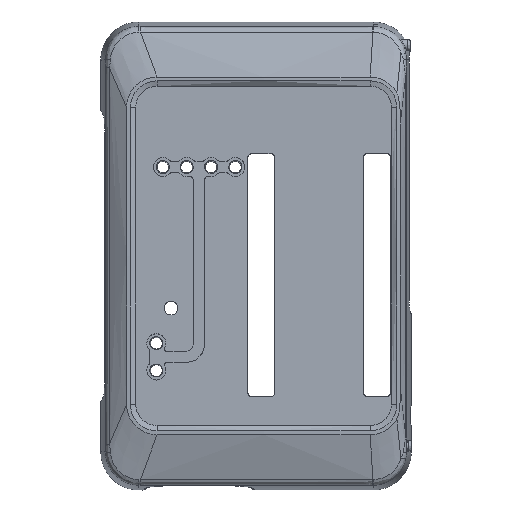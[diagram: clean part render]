
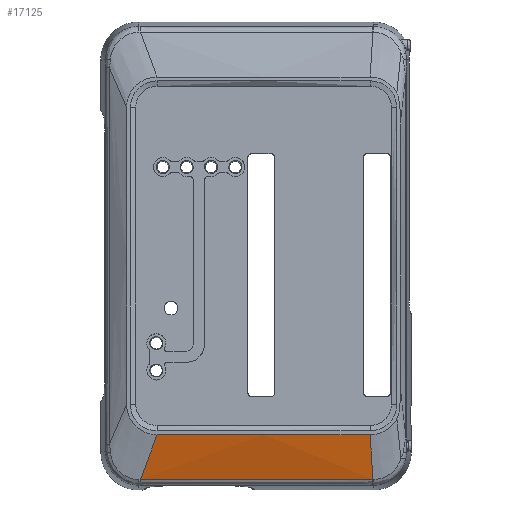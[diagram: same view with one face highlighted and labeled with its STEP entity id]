
A CAD part, top view. The second image highlights one B-rep face of the part: STEP entity #17125.
In plain terms, the highlighted free-form (B-spline) face has degree [3, 3] with [6, 4] control points.
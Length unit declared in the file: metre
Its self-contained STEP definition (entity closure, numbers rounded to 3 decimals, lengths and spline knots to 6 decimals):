
#305 = CARTESIAN_POINT ( 'NONE',  ( -0.029435, 0.020688, 0.003721 ) ) ;
#500 = CARTESIAN_POINT ( 'NONE',  ( -0.023381, 0.022264, -0.013515 ) ) ;
#784 = CARTESIAN_POINT ( 'NONE',  ( -0.027499, 0.021329, 0.005542 ) ) ;
#920 = CARTESIAN_POINT ( 'NONE',  ( -0.027499, 0.021174, -0.01506 ) ) ;
#1070 = B_SPLINE_CURVE_WITH_KNOTS ( 'NONE', 3,
 ( #7964, #23617, #10175, #14713 ),
 .UNSPECIFIED., .F., .F.,
 ( 4, 4 ),
 ( 0., 1. ),
 .UNSPECIFIED. ) ;
#1439 = CARTESIAN_POINT ( 'NONE',  ( -0.0235, 0.022164, 0.015 ) ) ;
#2031 = VERTEX_POINT ( 'NONE', #9683 ) ;
#2661 = CARTESIAN_POINT ( 'NONE',  ( -0.02944, 0.020691, -0.004747 ) ) ;
#2706 = CARTESIAN_POINT ( 'NONE',  ( -0.0235, 0.022164, 0.015 ) ) ;
#4419 = CARTESIAN_POINT ( 'NONE',  ( -0.029438, 0.020689, 0.000675 ) ) ;
#5209 = CARTESIAN_POINT ( 'NONE',  ( -0.0235, 0.022164, 0.015 ) ) ;
#5768 = VERTEX_POINT ( 'NONE', #5209 ) ;
#6206 = EDGE_CURVE ( 'NONE', #24885, #5768, #25478, .T. ) ;
#6627 = CARTESIAN_POINT ( 'NONE',  ( -0.029437, 0.020689, 0.001693 ) ) ;
#6771 = CARTESIAN_POINT ( 'NONE',  ( -0.029438, 0.020689, 0.000635 ) ) ;
#6812 = VERTEX_POINT ( 'NONE', #10391 ) ;
#7166 = ORIENTED_EDGE ( 'NONE', *, *, #6206, .T. ) ;
#7196 = CARTESIAN_POINT ( 'NONE',  ( -0.029436, 0.020688, 0.002787 ) ) ;
#7527 = CARTESIAN_POINT ( 'NONE',  ( -0.02544, 0.021651, 0.015695 ) ) ;
#7784 = B_SPLINE_SURFACE_WITH_KNOTS ( 'NONE', 3, 3, ( 
 ( #500, #18642, #920, #22877 ),
 ( #12218, #27985, #11934, #21115 ),
 ( #25664, #27843, #20687, #23152 ),
 ( #7821, #9869, #784, #16720 ),
 ( #19068, #23012, #18775, #9727 ),
 ( #23450, #7527, #16428, #27696 ) ),
 .UNSPECIFIED., .F., .F., .F.,
 ( 4, 1, 1, 4 ),
 ( 4, 4 ),
 ( -0.02, 0., 1., 1.02 ),
 ( -0.018145, 0.925383 ),
 .UNSPECIFIED. ) ;
#7821 = CARTESIAN_POINT ( 'NONE',  ( -0.023381, 0.022669, 0.005871 ) ) ;
#7964 = CARTESIAN_POINT ( 'NONE',  ( -0.029402, 0.020673, -0.015162 ) ) ;
#8417 = CARTESIAN_POINT ( 'NONE',  ( -0.0235, 0.022663, -0.003672 ) ) ;
#9245 = CARTESIAN_POINT ( 'NONE',  ( -0.029438, 0.020689, 0.000871 ) ) ;
#9683 = CARTESIAN_POINT ( 'NONE',  ( -0.0235, 0.022257, -0.013 ) ) ;
#9727 = CARTESIAN_POINT ( 'NONE',  ( -0.029558, 0.020623, 0.015778 ) ) ;
#9869 = CARTESIAN_POINT ( 'NONE',  ( -0.02544, 0.021999, 0.005707 ) ) ;
#10094 = CARTESIAN_POINT ( 'NONE',  ( -0.027096, 0.02125, 0.015213 ) ) ;
#10175 = CARTESIAN_POINT ( 'NONE',  ( -0.025112, 0.021825, -0.013586 ) ) ;
#10241 = CARTESIAN_POINT ( 'NONE',  ( -0.025133, 0.021749, 0.015094 ) ) ;
#10391 = CARTESIAN_POINT ( 'NONE',  ( -0.029402, 0.020673, -0.015162 ) ) ;
#10704 = EDGE_CURVE ( 'NONE', #6812, #2031, #1070, .T. ) ;
#11195 = EDGE_LOOP ( 'NONE', ( #21181, #23171, #28831, #7166 ) ) ;
#11288 = CARTESIAN_POINT ( 'NONE',  ( -0.029438, 0.020689, 0.000617 ) ) ;
#11590 = CARTESIAN_POINT ( 'NONE',  ( -0.029429, 0.020686, -0.01 ) ) ;
#11934 = CARTESIAN_POINT ( 'NONE',  ( -0.027499, 0.021177, -0.014862 ) ) ;
#12218 = CARTESIAN_POINT ( 'NONE',  ( -0.023381, 0.022273, -0.013329 ) ) ;
#12798 = B_SPLINE_CURVE_WITH_KNOTS ( 'NONE', 3,
 ( #19527, #8417, #20396, #2706 ),
 .UNSPECIFIED., .F., .F.,
 ( 4, 4 ),
 ( 0., 1. ),
 .UNSPECIFIED. ) ;
#13407 = B_SPLINE_CURVE_WITH_KNOTS ( 'NONE', 3,
 ( #22250, #26638, #24730, #22686, #20357, #305, #7196, #6627, #22407, #9245, #26784, #4419, #6771, #11288, #2661, #11590, #15681 ),
 .UNSPECIFIED., .F., .F.,
 ( 4, 2, 2, 1, 1, 1, 1, 1, 2, 2, 4 ),
 ( 0., 0.25, 0.375, 0.4375, 0.46875, 0.484375, 0.492187, 0.496094, 0.498047, 0.5, 1. ),
 .UNSPECIFIED. ) ;
#14713 = CARTESIAN_POINT ( 'NONE',  ( -0.0235, 0.022257, -0.013 ) ) ;
#15681 = CARTESIAN_POINT ( 'NONE',  ( -0.029402, 0.020673, -0.015162 ) ) ;
#15835 = CARTESIAN_POINT ( 'NONE',  ( -0.029391, 0.020666, 0.015358 ) ) ;
#16428 = CARTESIAN_POINT ( 'NONE',  ( -0.027499, 0.021136, 0.015838 ) ) ;
#16720 = CARTESIAN_POINT ( 'NONE',  ( -0.029558, 0.020659, 0.005378 ) ) ;
#17125 = ADVANCED_FACE ( 'NONE', ( #18217 ), #7784, .F. ) ;
#18217 = FACE_OUTER_BOUND ( 'NONE', #11195, .T. ) ;
#18642 = CARTESIAN_POINT ( 'NONE',  ( -0.02544, 0.021719, -0.014288 ) ) ;
#18775 = CARTESIAN_POINT ( 'NONE',  ( -0.027499, 0.02114, 0.01564 ) ) ;
#19068 = CARTESIAN_POINT ( 'NONE',  ( -0.023381, 0.022175, 0.015365 ) ) ;
#19527 = CARTESIAN_POINT ( 'NONE',  ( -0.0235, 0.022257, -0.013 ) ) ;
#20357 = CARTESIAN_POINT ( 'NONE',  ( -0.029431, 0.020686, 0.005585 ) ) ;
#20396 = CARTESIAN_POINT ( 'NONE',  ( -0.0235, 0.022631, 0.005675 ) ) ;
#20687 = CARTESIAN_POINT ( 'NONE',  ( -0.027499, 0.021342, -0.004763 ) ) ;
#21115 = CARTESIAN_POINT ( 'NONE',  ( -0.029558, 0.02063, -0.015629 ) ) ;
#21181 = ORIENTED_EDGE ( 'NONE', *, *, #24487, .F. ) ;
#21338 = CARTESIAN_POINT ( 'NONE',  ( -0.029391, 0.020666, 0.015358 ) ) ;
#22250 = CARTESIAN_POINT ( 'NONE',  ( -0.029391, 0.020666, 0.015358 ) ) ;
#22407 = CARTESIAN_POINT ( 'NONE',  ( -0.029437, 0.020689, 0.001145 ) ) ;
#22686 = CARTESIAN_POINT ( 'NONE',  ( -0.029428, 0.020685, 0.006822 ) ) ;
#22877 = CARTESIAN_POINT ( 'NONE',  ( -0.029558, 0.020629, -0.015833 ) ) ;
#23012 = CARTESIAN_POINT ( 'NONE',  ( -0.02544, 0.021657, 0.015503 ) ) ;
#23152 = CARTESIAN_POINT ( 'NONE',  ( -0.029558, 0.020661, -0.005228 ) ) ;
#23171 = ORIENTED_EDGE ( 'NONE', *, *, #10704, .F. ) ;
#23450 = CARTESIAN_POINT ( 'NONE',  ( -0.023381, 0.022165, 0.015551 ) ) ;
#23617 = CARTESIAN_POINT ( 'NONE',  ( -0.027079, 0.021297, -0.014306 ) ) ;
#24487 = EDGE_CURVE ( 'NONE', #2031, #5768, #12798, .T. ) ;
#24730 = CARTESIAN_POINT ( 'NONE',  ( -0.029417, 0.020679, 0.010512 ) ) ;
#24885 = VERTEX_POINT ( 'NONE', #15835 ) ;
#25478 = B_SPLINE_CURVE_WITH_KNOTS ( 'NONE', 3,
 ( #21338, #10094, #10241, #1439 ),
 .UNSPECIFIED., .F., .F.,
 ( 4, 4 ),
 ( 0., 1. ),
 .UNSPECIFIED. ) ;
#25664 = CARTESIAN_POINT ( 'NONE',  ( -0.023381, 0.022702, -0.003832 ) ) ;
#26638 = CARTESIAN_POINT ( 'NONE',  ( -0.029406, 0.020674, 0.012948 ) ) ;
#26784 = CARTESIAN_POINT ( 'NONE',  ( -0.029438, 0.020689, 0.000733 ) ) ;
#26866 = EDGE_CURVE ( 'NONE', #24885, #6812, #13407, .T. ) ;
#27696 = CARTESIAN_POINT ( 'NONE',  ( -0.029558, 0.020622, 0.015982 ) ) ;
#27843 = CARTESIAN_POINT ( 'NONE',  ( -0.02544, 0.022022, -0.004297 ) ) ;
#27985 = CARTESIAN_POINT ( 'NONE',  ( -0.02544, 0.021725, -0.014096 ) ) ;
#28831 = ORIENTED_EDGE ( 'NONE', *, *, #26866, .F. ) ;
